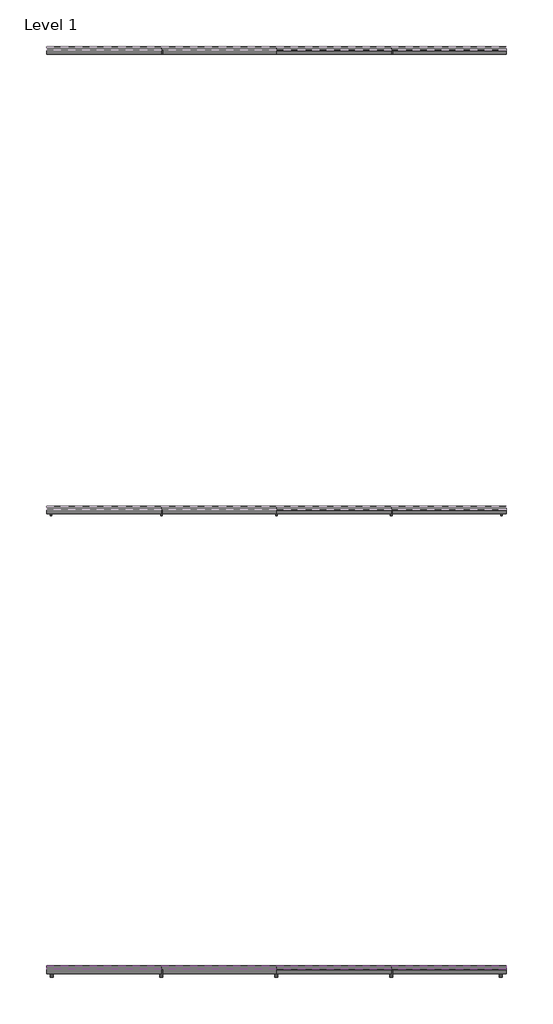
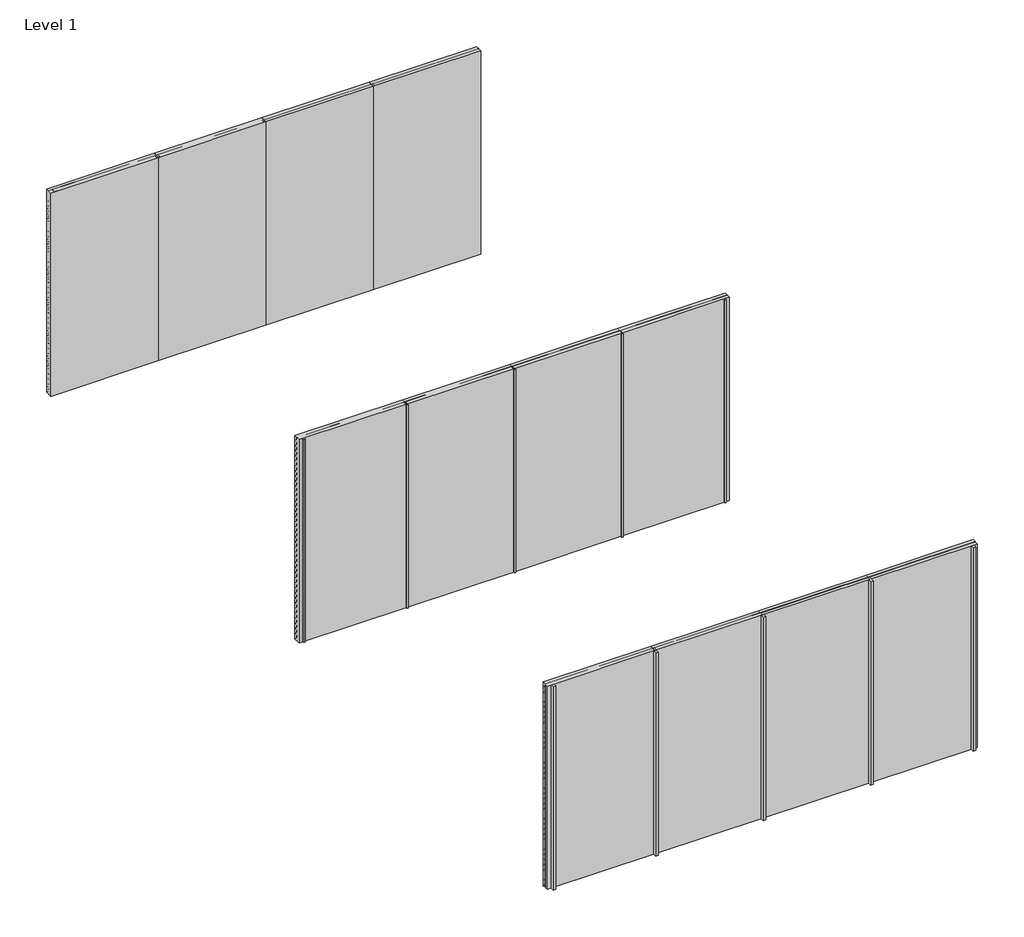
# One storey, part 1 of 2: 49 proxies, 15 members, 15 plates.
"""IFC4 building model written with IfcOpenShell, lengths in millimetres."""

from ifc_helpers import new_model, si_unit, frame, origin, origin_with_axes, place, context, project, spatial, polyline, outline, extrude, transform, mapped, element, save
from components import rectangular_mullion_98630f9b, rectangular_mullion_da718602, rectangular_mullion_a477f927, rectangular_mullion_586cffca, rectangular_mullion_76a5abe1, rectangular_mullion_925e09c1, rectangular_mullion_f8ddd055, rectangular_mullion_9de2c187, rectangular_mullion_b1fd9634, empty_system_panel_empty_ae16e1e1

model = new_model("IFC4")

# Units and contexts
model_context = context("Model", 3, world=origin())
ifc_project = project(units=[si_unit("LENGTHUNIT", "METRE", prefix="MILLI")], contexts=[model_context])

# Site, building, storey
site = spatial("IfcSite", under=ifc_project)
building = spatial("IfcBuilding", under=site)
storey = spatial("IfcBuildingStorey", under=building, Name="Level 1", Elevation=0.0)

# Proxies
placement = place(None, origin())
element("IfcBuildingElementProxy", 1, Name="Wall Sweeps", at=placement, inside=storey, context=model_context, shape_type="SweptSolid", body=[
    extrude(outline(polyline([(-7995.0, 3000.0), (-7995.0, 2992.2770357), (-7948.3, 2928.0), (-7948.3, 2910.0), (-7997.0, 2977.0297995), (-7997.0, 3000.0), (-7995.0, 3000.0)])), frame((0.0, 0.0, 0.0), z_axis=(1.0, 0.0, 0.0), x_axis=(0.0, 1.0, 0.0)), (0.0, 0.0, 1.0), 6000.0),
])
element("IfcBuildingElementProxy", 2, Name="Wall Sweeps", at=placement, inside=storey, context=model_context, shape_type="SweptSolid", body=[
    extrude(outline(polyline([(-7995.0, 2925.0), (-7995.0, 2917.2770357), (-7948.3, 2853.0), (-7948.3, 2835.0), (-7997.0, 2902.0297995), (-7997.0, 2925.0), (-7995.0, 2925.0)])), frame((0.0, 0.0, 0.0), z_axis=(1.0, 0.0, 0.0), x_axis=(0.0, 1.0, 0.0)), (0.0, 0.0, 1.0), 6000.0),
])
element("IfcBuildingElementProxy", 3, Name="Wall Sweeps", at=placement, inside=storey, context=model_context, shape_type="SweptSolid", body=[
    extrude(outline(polyline([(-7995.0, 2850.0), (-7995.0, 2842.2770357), (-7948.3, 2778.0), (-7948.3, 2760.0), (-7997.0, 2827.0297995), (-7997.0, 2850.0), (-7995.0, 2850.0)])), frame((0.0, 0.0, 0.0), z_axis=(1.0, 0.0, 0.0), x_axis=(0.0, 1.0, 0.0)), (0.0, 0.0, 1.0), 6000.0),
])
element("IfcBuildingElementProxy", 4, Name="Wall Sweeps", at=placement, inside=storey, context=model_context, shape_type="SweptSolid", body=[
    extrude(outline(polyline([(-7995.0, 2775.0), (-7995.0, 2767.2770357), (-7948.3, 2703.0), (-7948.3, 2685.0), (-7997.0, 2752.0297995), (-7997.0, 2775.0), (-7995.0, 2775.0)])), frame((0.0, 0.0, 0.0), z_axis=(1.0, 0.0, 0.0), x_axis=(0.0, 1.0, 0.0)), (0.0, 0.0, 1.0), 6000.0),
])
element("IfcBuildingElementProxy", 5, Name="Wall Sweeps", at=placement, inside=storey, context=model_context, shape_type="SweptSolid", body=[
    extrude(outline(polyline([(-7995.0, 2700.0), (-7995.0, 2692.2770357), (-7948.3, 2628.0), (-7948.3, 2610.0), (-7997.0, 2677.0297995), (-7997.0, 2700.0), (-7995.0, 2700.0)])), frame((0.0, 0.0, 0.0), z_axis=(1.0, 0.0, 0.0), x_axis=(0.0, 1.0, 0.0)), (0.0, 0.0, 1.0), 6000.0),
])
element("IfcBuildingElementProxy", 6, Name="Wall Sweeps", at=placement, inside=storey, context=model_context, shape_type="SweptSolid", body=[
    extrude(outline(polyline([(-7995.0, 2625.0), (-7995.0, 2617.2770357), (-7948.3, 2553.0), (-7948.3, 2535.0), (-7997.0, 2602.0297995), (-7997.0, 2625.0), (-7995.0, 2625.0)])), frame((0.0, 0.0, 0.0), z_axis=(1.0, 0.0, 0.0), x_axis=(0.0, 1.0, 0.0)), (0.0, 0.0, 1.0), 6000.0),
])
element("IfcBuildingElementProxy", 7, Name="Wall Sweeps", at=placement, inside=storey, context=model_context, shape_type="SweptSolid", body=[
    extrude(outline(polyline([(-7995.0, 2550.0), (-7995.0, 2542.2770357), (-7948.3, 2478.0), (-7948.3, 2460.0), (-7997.0, 2527.0297995), (-7997.0, 2550.0), (-7995.0, 2550.0)])), frame((0.0, 0.0, 0.0), z_axis=(1.0, 0.0, 0.0), x_axis=(0.0, 1.0, 0.0)), (0.0, 0.0, 1.0), 6000.0),
])
element("IfcBuildingElementProxy", 8, Name="Wall Sweeps", at=placement, inside=storey, context=model_context, shape_type="SweptSolid", body=[
    extrude(outline(polyline([(-7995.0, 2475.0), (-7995.0, 2467.2770357), (-7948.3, 2403.0), (-7948.3, 2385.0), (-7997.0, 2452.0297995), (-7997.0, 2475.0), (-7995.0, 2475.0)])), frame((0.0, 0.0, 0.0), z_axis=(1.0, 0.0, 0.0), x_axis=(0.0, 1.0, 0.0)), (0.0, 0.0, 1.0), 6000.0),
])
element("IfcBuildingElementProxy", 9, Name="Wall Sweeps", at=placement, inside=storey, context=model_context, shape_type="SweptSolid", body=[
    extrude(outline(polyline([(-7995.0, 2400.0), (-7995.0, 2392.2770357), (-7948.3, 2328.0), (-7948.3, 2310.0), (-7997.0, 2377.0297995), (-7997.0, 2400.0), (-7995.0, 2400.0)])), frame((0.0, 0.0, 0.0), z_axis=(1.0, 0.0, 0.0), x_axis=(0.0, 1.0, 0.0)), (0.0, 0.0, 1.0), 6000.0),
])
element("IfcBuildingElementProxy", 10, Name="Wall Sweeps", at=placement, inside=storey, context=model_context, shape_type="SweptSolid", body=[
    extrude(outline(polyline([(-13995.0, 3000.0), (-13995.0, 2992.2770357), (-13948.3, 2928.0), (-13948.3, 2910.0), (-13997.0, 2977.0297995), (-13997.0, 3000.0), (-13995.0, 3000.0)])), frame((0.0, 0.0, 0.0), z_axis=(1.0, 0.0, 0.0), x_axis=(0.0, 1.0, 0.0)), (0.0, 0.0, 1.0), 6000.0),
])
element("IfcBuildingElementProxy", 11, Name="Wall Sweeps", at=placement, inside=storey, context=model_context, shape_type="SweptSolid", body=[
    extrude(outline(polyline([(-13995.0, 2925.0), (-13995.0, 2917.2770357), (-13948.3, 2853.0), (-13948.3, 2835.0), (-13997.0, 2902.0297995), (-13997.0, 2925.0), (-13995.0, 2925.0)])), frame((0.0, 0.0, 0.0), z_axis=(1.0, 0.0, 0.0), x_axis=(0.0, 1.0, 0.0)), (0.0, 0.0, 1.0), 6000.0),
])
element("IfcBuildingElementProxy", 12, Name="Wall Sweeps", at=placement, inside=storey, context=model_context, shape_type="SweptSolid", body=[
    extrude(outline(polyline([(-13995.0, 2850.0), (-13995.0, 2842.2770357), (-13948.3, 2778.0), (-13948.3, 2760.0), (-13997.0, 2827.0297995), (-13997.0, 2850.0), (-13995.0, 2850.0)])), frame((0.0, 0.0, 0.0), z_axis=(1.0, 0.0, 0.0), x_axis=(0.0, 1.0, 0.0)), (0.0, 0.0, 1.0), 6000.0),
])
element("IfcBuildingElementProxy", 13, Name="Wall Sweeps", at=placement, inside=storey, context=model_context, shape_type="SweptSolid", body=[
    extrude(outline(polyline([(-13995.0, 2775.0), (-13995.0, 2767.2770357), (-13948.3, 2703.0), (-13948.3, 2685.0), (-13997.0, 2752.0297995), (-13997.0, 2775.0), (-13995.0, 2775.0)])), frame((0.0, 0.0, 0.0), z_axis=(1.0, 0.0, 0.0), x_axis=(0.0, 1.0, 0.0)), (0.0, 0.0, 1.0), 6000.0),
])
element("IfcBuildingElementProxy", 14, Name="Wall Sweeps", at=placement, inside=storey, context=model_context, shape_type="SweptSolid", body=[
    extrude(outline(polyline([(-13995.0, 2700.0), (-13995.0, 2692.2770357), (-13948.3, 2628.0), (-13948.3, 2610.0), (-13997.0, 2677.0297995), (-13997.0, 2700.0), (-13995.0, 2700.0)])), frame((0.0, 0.0, 0.0), z_axis=(1.0, 0.0, 0.0), x_axis=(0.0, 1.0, 0.0)), (0.0, 0.0, 1.0), 6000.0),
])
element("IfcBuildingElementProxy", 15, Name="Wall Sweeps", at=placement, inside=storey, context=model_context, shape_type="SweptSolid", body=[
    extrude(outline(polyline([(-13995.0, 2625.0), (-13995.0, 2617.2770357), (-13948.3, 2553.0), (-13948.3, 2535.0), (-13997.0, 2602.0297995), (-13997.0, 2625.0), (-13995.0, 2625.0)])), frame((0.0, 0.0, 0.0), z_axis=(1.0, 0.0, 0.0), x_axis=(0.0, 1.0, 0.0)), (0.0, 0.0, 1.0), 6000.0),
])
element("IfcBuildingElementProxy", 16, Name="Wall Sweeps", at=placement, inside=storey, context=model_context, shape_type="SweptSolid", body=[
    extrude(outline(polyline([(-13995.0, 2550.0), (-13995.0, 2542.2770357), (-13948.3, 2478.0), (-13948.3, 2460.0), (-13997.0, 2527.0297995), (-13997.0, 2550.0), (-13995.0, 2550.0)])), frame((0.0, 0.0, 0.0), z_axis=(1.0, 0.0, 0.0), x_axis=(0.0, 1.0, 0.0)), (0.0, 0.0, 1.0), 6000.0),
])
element("IfcBuildingElementProxy", 17, Name="Wall Sweeps", at=placement, inside=storey, context=model_context, shape_type="SweptSolid", body=[
    extrude(outline(polyline([(-13995.0, 2475.0), (-13995.0, 2467.2770357), (-13948.3, 2403.0), (-13948.3, 2385.0), (-13997.0, 2452.0297995), (-13997.0, 2475.0), (-13995.0, 2475.0)])), frame((0.0, 0.0, 0.0), z_axis=(1.0, 0.0, 0.0), x_axis=(0.0, 1.0, 0.0)), (0.0, 0.0, 1.0), 6000.0),
])
element("IfcBuildingElementProxy", 18, Name="Wall Sweeps", at=placement, inside=storey, context=model_context, shape_type="SweptSolid", body=[
    extrude(outline(polyline([(-13995.0, 2400.0), (-13995.0, 2392.2770357), (-13948.3, 2328.0), (-13948.3, 2310.0), (-13997.0, 2377.0297995), (-13997.0, 2400.0), (-13995.0, 2400.0)])), frame((0.0, 0.0, 0.0), z_axis=(1.0, 0.0, 0.0), x_axis=(0.0, 1.0, 0.0)), (0.0, 0.0, 1.0), 6000.0),
])
element("IfcBuildingElementProxy", 19, Name="Wall Sweeps", at=placement, inside=storey, context=model_context, shape_type="SweptSolid", body=[
    extrude(outline(polyline([(-13995.0, 2325.0), (-13995.0, 2317.2770357), (-13948.3, 2253.0), (-13948.3, 2235.0), (-13997.0, 2302.0297995), (-13997.0, 2325.0), (-13995.0, 2325.0)])), frame((0.0, 0.0, 0.0), z_axis=(1.0, 0.0, 0.0), x_axis=(0.0, 1.0, 0.0)), (0.0, 0.0, 1.0), 6000.0),
])
element("IfcBuildingElementProxy", 20, Name="Wall Sweeps", at=placement, inside=storey, context=model_context, shape_type="SweptSolid", body=[
    extrude(outline(polyline([(-13995.0, 2250.0), (-13995.0, 2242.2770357), (-13948.3, 2178.0), (-13948.3, 2160.0), (-13997.0, 2227.0297995), (-13997.0, 2250.0), (-13995.0, 2250.0)])), frame((0.0, 0.0, 0.0), z_axis=(1.0, 0.0, 0.0), x_axis=(0.0, 1.0, 0.0)), (0.0, 0.0, 1.0), 6000.0),
])
element("IfcBuildingElementProxy", 21, Name="Wall Sweeps", at=placement, inside=storey, context=model_context, shape_type="SweptSolid", body=[
    extrude(outline(polyline([(-13995.0, 2175.0), (-13995.0, 2167.2770357), (-13948.3, 2103.0), (-13948.3, 2085.0), (-13997.0, 2152.0297995), (-13997.0, 2175.0), (-13995.0, 2175.0)])), frame((0.0, 0.0, 0.0), z_axis=(1.0, 0.0, 0.0), x_axis=(0.0, 1.0, 0.0)), (0.0, 0.0, 1.0), 6000.0),
])
element("IfcBuildingElementProxy", 22, Name="Wall Sweeps", at=placement, inside=storey, context=model_context, shape_type="SweptSolid", body=[
    extrude(outline(polyline([(-13995.0, 2100.0), (-13995.0, 2092.2770357), (-13948.3, 2028.0), (-13948.3, 2010.0), (-13997.0, 2077.0297995), (-13997.0, 2100.0), (-13995.0, 2100.0)])), frame((0.0, 0.0, 0.0), z_axis=(1.0, 0.0, 0.0), x_axis=(0.0, 1.0, 0.0)), (0.0, 0.0, 1.0), 6000.0),
])
element("IfcBuildingElementProxy", 23, Name="Wall Sweeps", at=placement, inside=storey, context=model_context, shape_type="SweptSolid", body=[
    extrude(outline(polyline([(-13995.0, 2025.0), (-13995.0, 2017.2770357), (-13948.3, 1953.0), (-13948.3, 1935.0), (-13997.0, 2002.0297995), (-13997.0, 2025.0), (-13995.0, 2025.0)])), frame((0.0, 0.0, 0.0), z_axis=(1.0, 0.0, 0.0), x_axis=(0.0, 1.0, 0.0)), (0.0, 0.0, 1.0), 6000.0),
])
element("IfcBuildingElementProxy", 24, Name="Wall Sweeps", at=placement, inside=storey, context=model_context, shape_type="SweptSolid", body=[
    extrude(outline(polyline([(-13995.0, 1950.0), (-13995.0, 1942.2770357), (-13948.3, 1878.0), (-13948.3, 1860.0), (-13997.0, 1927.0297995), (-13997.0, 1950.0), (-13995.0, 1950.0)])), frame((0.0, 0.0, 0.0), z_axis=(1.0, 0.0, 0.0), x_axis=(0.0, 1.0, 0.0)), (0.0, 0.0, 1.0), 6000.0),
])
element("IfcBuildingElementProxy", 25, Name="Wall Sweeps", at=placement, inside=storey, context=model_context, shape_type="SweptSolid", body=[
    extrude(outline(polyline([(-13995.0, 1875.0), (-13995.0, 1867.2770357), (-13948.3, 1803.0), (-13948.3, 1785.0), (-13997.0, 1852.0297995), (-13997.0, 1875.0), (-13995.0, 1875.0)])), frame((0.0, 0.0, 0.0), z_axis=(1.0, 0.0, 0.0), x_axis=(0.0, 1.0, 0.0)), (0.0, 0.0, 1.0), 6000.0),
])
element("IfcBuildingElementProxy", 26, Name="Wall Sweeps", at=placement, inside=storey, context=model_context, shape_type="SweptSolid", body=[
    extrude(outline(polyline([(-13995.0, 1800.0), (-13995.0, 1792.2770357), (-13948.3, 1728.0), (-13948.3, 1710.0), (-13997.0, 1777.0297995), (-13997.0, 1800.0), (-13995.0, 1800.0)])), frame((0.0, 0.0, 0.0), z_axis=(1.0, 0.0, 0.0), x_axis=(0.0, 1.0, 0.0)), (0.0, 0.0, 1.0), 6000.0),
])
element("IfcBuildingElementProxy", 27, Name="Wall Sweeps", at=placement, inside=storey, context=model_context, shape_type="SweptSolid", body=[
    extrude(outline(polyline([(-13995.0, 1725.0), (-13995.0, 1717.2770357), (-13948.3, 1653.0), (-13948.3, 1635.0), (-13997.0, 1702.0297995), (-13997.0, 1725.0), (-13995.0, 1725.0)])), frame((0.0, 0.0, 0.0), z_axis=(1.0, 0.0, 0.0), x_axis=(0.0, 1.0, 0.0)), (0.0, 0.0, 1.0), 6000.0),
])
element("IfcBuildingElementProxy", 28, Name="Wall Sweeps", at=placement, inside=storey, context=model_context, shape_type="SweptSolid", body=[
    extrude(outline(polyline([(-13995.0, 1650.0), (-13995.0, 1642.2770357), (-13948.3, 1578.0), (-13948.3, 1560.0), (-13997.0, 1627.0297995), (-13997.0, 1650.0), (-13995.0, 1650.0)])), frame((0.0, 0.0, 0.0), z_axis=(1.0, 0.0, 0.0), x_axis=(0.0, 1.0, 0.0)), (0.0, 0.0, 1.0), 6000.0),
])
element("IfcBuildingElementProxy", 29, Name="Wall Sweeps", at=placement, inside=storey, context=model_context, shape_type="SweptSolid", body=[
    extrude(outline(polyline([(-13995.0, 1575.0), (-13995.0, 1567.2770357), (-13948.3, 1503.0), (-13948.3, 1485.0), (-13997.0, 1552.0297995), (-13997.0, 1575.0), (-13995.0, 1575.0)])), frame((0.0, 0.0, 0.0), z_axis=(1.0, 0.0, 0.0), x_axis=(0.0, 1.0, 0.0)), (0.0, 0.0, 1.0), 6000.0),
])
element("IfcBuildingElementProxy", 30, Name="Wall Sweeps", at=placement, inside=storey, context=model_context, shape_type="SweptSolid", body=[
    extrude(outline(polyline([(-13995.0, 1500.0), (-13995.0, 1492.2770357), (-13948.3, 1428.0), (-13948.3, 1410.0), (-13997.0, 1477.0297995), (-13997.0, 1500.0), (-13995.0, 1500.0)])), frame((0.0, 0.0, 0.0), z_axis=(1.0, 0.0, 0.0), x_axis=(0.0, 1.0, 0.0)), (0.0, 0.0, 1.0), 6000.0),
])
element("IfcBuildingElementProxy", 31, Name="Wall Sweeps", at=placement, inside=storey, context=model_context, shape_type="SweptSolid", body=[
    extrude(outline(polyline([(-13995.0, 1425.0), (-13995.0, 1417.2770357), (-13948.3, 1353.0), (-13948.3, 1335.0), (-13997.0, 1402.0297995), (-13997.0, 1425.0), (-13995.0, 1425.0)])), frame((0.0, 0.0, 0.0), z_axis=(1.0, 0.0, 0.0), x_axis=(0.0, 1.0, 0.0)), (0.0, 0.0, 1.0), 6000.0),
])
element("IfcBuildingElementProxy", 32, Name="Wall Sweeps", at=placement, inside=storey, context=model_context, shape_type="SweptSolid", body=[
    extrude(outline(polyline([(-13995.0, 1350.0), (-13995.0, 1342.2770357), (-13948.3, 1278.0), (-13948.3, 1260.0), (-13997.0, 1327.0297995), (-13997.0, 1350.0), (-13995.0, 1350.0)])), frame((0.0, 0.0, 0.0), z_axis=(1.0, 0.0, 0.0), x_axis=(0.0, 1.0, 0.0)), (0.0, 0.0, 1.0), 6000.0),
])
element("IfcBuildingElementProxy", 33, Name="Wall Sweeps", at=placement, inside=storey, context=model_context, shape_type="SweptSolid", body=[
    extrude(outline(polyline([(-13995.0, 1275.0), (-13995.0, 1267.2770357), (-13948.3, 1203.0), (-13948.3, 1185.0), (-13997.0, 1252.0297995), (-13997.0, 1275.0), (-13995.0, 1275.0)])), frame((0.0, 0.0, 0.0), z_axis=(1.0, 0.0, 0.0), x_axis=(0.0, 1.0, 0.0)), (0.0, 0.0, 1.0), 6000.0),
])
element("IfcBuildingElementProxy", 34, Name="Wall Sweeps", at=placement, inside=storey, context=model_context, shape_type="SweptSolid", body=[
    extrude(outline(polyline([(-13995.0, 1200.0), (-13995.0, 1192.2770357), (-13948.3, 1128.0), (-13948.3, 1110.0), (-13997.0, 1177.0297995), (-13997.0, 1200.0), (-13995.0, 1200.0)])), frame((0.0, 0.0, 0.0), z_axis=(1.0, 0.0, 0.0), x_axis=(0.0, 1.0, 0.0)), (0.0, 0.0, 1.0), 6000.0),
])
element("IfcBuildingElementProxy", 35, Name="Wall Sweeps", at=placement, inside=storey, context=model_context, shape_type="SweptSolid", body=[
    extrude(outline(polyline([(-13995.0, 1125.0), (-13995.0, 1117.2770357), (-13948.3, 1053.0), (-13948.3, 1035.0), (-13997.0, 1102.0297995), (-13997.0, 1125.0), (-13995.0, 1125.0)])), frame((0.0, 0.0, 0.0), z_axis=(1.0, 0.0, 0.0), x_axis=(0.0, 1.0, 0.0)), (0.0, 0.0, 1.0), 6000.0),
])
element("IfcBuildingElementProxy", 36, Name="Wall Sweeps", at=placement, inside=storey, context=model_context, shape_type="SweptSolid", body=[
    extrude(outline(polyline([(-13995.0, 1050.0), (-13995.0, 1042.2770357), (-13948.3, 978.0), (-13948.3, 960.0), (-13997.0, 1027.0297995), (-13997.0, 1050.0), (-13995.0, 1050.0)])), frame((0.0, 0.0, 0.0), z_axis=(1.0, 0.0, 0.0), x_axis=(0.0, 1.0, 0.0)), (0.0, 0.0, 1.0), 6000.0),
])
element("IfcBuildingElementProxy", 37, Name="Wall Sweeps", at=placement, inside=storey, context=model_context, shape_type="SweptSolid", body=[
    extrude(outline(polyline([(-13995.0, 975.0), (-13995.0, 967.2770357), (-13948.3, 903.0), (-13948.3, 885.0), (-13997.0, 952.0297995), (-13997.0, 975.0), (-13995.0, 975.0)])), frame((0.0, 0.0, 0.0), z_axis=(1.0, 0.0, 0.0), x_axis=(0.0, 1.0, 0.0)), (0.0, 0.0, 1.0), 6000.0),
])
element("IfcBuildingElementProxy", 38, Name="Wall Sweeps", at=placement, inside=storey, context=model_context, shape_type="SweptSolid", body=[
    extrude(outline(polyline([(-13995.0, 900.0), (-13995.0, 892.2770357), (-13948.3, 828.0), (-13948.3, 810.0), (-13997.0, 877.0297995), (-13997.0, 900.0), (-13995.0, 900.0)])), frame((0.0, 0.0, 0.0), z_axis=(1.0, 0.0, 0.0), x_axis=(0.0, 1.0, 0.0)), (0.0, 0.0, 1.0), 6000.0),
])
element("IfcBuildingElementProxy", 39, Name="Wall Sweeps", at=placement, inside=storey, context=model_context, shape_type="SweptSolid", body=[
    extrude(outline(polyline([(-13995.0, 825.0), (-13995.0, 817.2770357), (-13948.3, 753.0), (-13948.3, 735.0), (-13997.0, 802.0297995), (-13997.0, 825.0), (-13995.0, 825.0)])), frame((0.0, 0.0, 0.0), z_axis=(1.0, 0.0, 0.0), x_axis=(0.0, 1.0, 0.0)), (0.0, 0.0, 1.0), 6000.0),
])
element("IfcBuildingElementProxy", 40, Name="Wall Sweeps", at=placement, inside=storey, context=model_context, shape_type="SweptSolid", body=[
    extrude(outline(polyline([(-13995.0, 750.0), (-13995.0, 742.2770357), (-13948.3, 678.0), (-13948.3, 660.0), (-13997.0, 727.0297995), (-13997.0, 750.0), (-13995.0, 750.0)])), frame((0.0, 0.0, 0.0), z_axis=(1.0, 0.0, 0.0), x_axis=(0.0, 1.0, 0.0)), (0.0, 0.0, 1.0), 6000.0),
])
element("IfcBuildingElementProxy", 41, Name="Wall Sweeps", at=placement, inside=storey, context=model_context, shape_type="SweptSolid", body=[
    extrude(outline(polyline([(-13995.0, 675.0), (-13995.0, 667.2770357), (-13948.3, 603.0), (-13948.3, 585.0), (-13997.0, 652.0297995), (-13997.0, 675.0), (-13995.0, 675.0)])), frame((0.0, 0.0, 0.0), z_axis=(1.0, 0.0, 0.0), x_axis=(0.0, 1.0, 0.0)), (0.0, 0.0, 1.0), 6000.0),
])
element("IfcBuildingElementProxy", 42, Name="Wall Sweeps", at=placement, inside=storey, context=model_context, shape_type="SweptSolid", body=[
    extrude(outline(polyline([(-13995.0, 600.0), (-13995.0, 592.2770357), (-13948.3, 528.0), (-13948.3, 510.0), (-13997.0, 577.0297995), (-13997.0, 600.0), (-13995.0, 600.0)])), frame((0.0, 0.0, 0.0), z_axis=(1.0, 0.0, 0.0), x_axis=(0.0, 1.0, 0.0)), (0.0, 0.0, 1.0), 6000.0),
])
element("IfcBuildingElementProxy", 43, Name="Wall Sweeps", at=placement, inside=storey, context=model_context, shape_type="SweptSolid", body=[
    extrude(outline(polyline([(-13995.0, 525.0), (-13995.0, 517.2770357), (-13948.3, 453.0), (-13948.3, 435.0), (-13997.0, 502.0297995), (-13997.0, 525.0), (-13995.0, 525.0)])), frame((0.0, 0.0, 0.0), z_axis=(1.0, 0.0, 0.0), x_axis=(0.0, 1.0, 0.0)), (0.0, 0.0, 1.0), 6000.0),
])
element("IfcBuildingElementProxy", 44, Name="Wall Sweeps", at=placement, inside=storey, context=model_context, shape_type="SweptSolid", body=[
    extrude(outline(polyline([(-13995.0, 450.0), (-13995.0, 442.2770357), (-13948.3, 378.0), (-13948.3, 360.0), (-13997.0, 427.0297995), (-13997.0, 450.0), (-13995.0, 450.0)])), frame((0.0, 0.0, 0.0), z_axis=(1.0, 0.0, 0.0), x_axis=(0.0, 1.0, 0.0)), (0.0, 0.0, 1.0), 6000.0),
])
element("IfcBuildingElementProxy", 45, Name="Wall Sweeps", at=placement, inside=storey, context=model_context, shape_type="SweptSolid", body=[
    extrude(outline(polyline([(-13995.0, 375.0), (-13995.0, 367.2770357), (-13948.3, 303.0), (-13948.3, 285.0), (-13997.0, 352.0297995), (-13997.0, 375.0), (-13995.0, 375.0)])), frame((0.0, 0.0, 0.0), z_axis=(1.0, 0.0, 0.0), x_axis=(0.0, 1.0, 0.0)), (0.0, 0.0, 1.0), 6000.0),
])
element("IfcBuildingElementProxy", 46, Name="Wall Sweeps", at=placement, inside=storey, context=model_context, shape_type="SweptSolid", body=[
    extrude(outline(polyline([(-13995.0, 300.0), (-13995.0, 292.2770357), (-13948.3, 228.0), (-13948.3, 210.0), (-13997.0, 277.0297995), (-13997.0, 300.0), (-13995.0, 300.0)])), frame((0.0, 0.0, 0.0), z_axis=(1.0, 0.0, 0.0), x_axis=(0.0, 1.0, 0.0)), (0.0, 0.0, 1.0), 6000.0),
])
element("IfcBuildingElementProxy", 47, Name="Wall Sweeps", at=placement, inside=storey, context=model_context, shape_type="SweptSolid", body=[
    extrude(outline(polyline([(-13995.0, 225.0), (-13995.0, 217.2770357), (-13948.3, 153.0), (-13948.3, 135.0), (-13997.0, 202.0297995), (-13997.0, 225.0), (-13995.0, 225.0)])), frame((0.0, 0.0, 0.0), z_axis=(1.0, 0.0, 0.0), x_axis=(0.0, 1.0, 0.0)), (0.0, 0.0, 1.0), 6000.0),
])
element("IfcBuildingElementProxy", 48, Name="Wall Sweeps", at=placement, inside=storey, context=model_context, shape_type="SweptSolid", body=[
    extrude(outline(polyline([(-13995.0, 150.0), (-13995.0, 142.2770357), (-13948.3, 78.0), (-13948.3, 60.0), (-13997.0, 127.0297995), (-13997.0, 150.0), (-13995.0, 150.0)])), frame((0.0, 0.0, 0.0), z_axis=(1.0, 0.0, 0.0), x_axis=(0.0, 1.0, 0.0)), (0.0, 0.0, 1.0), 6000.0),
])
element("IfcBuildingElementProxy", 49, Name="Wall Sweeps", at=placement, inside=storey, context=model_context, shape_type="SweptSolid", body=[
    extrude(outline(polyline([(-13995.0, 75.0), (-13995.0, 67.2770357), (-13948.3, 3.0), (-13948.3, -15.0), (-13997.0, 52.0297995), (-13997.0, 75.0), (-13995.0, 75.0)])), frame((0.0, 0.0, 0.0), z_axis=(1.0, 0.0, 0.0), x_axis=(0.0, 1.0, 0.0)), (0.0, 0.0, 1.0), 6000.0),
])

# Members
rectangular_mullion_shape = rectangular_mullion_98630f9b(model_context)
element("IfcMember", 50, ObjectType="Rectangular Mullion : RSen_21_CWM_support profile - 40x47 - left_gen_duco projects", at=placement, inside=storey, context=model_context, shape_type="MappedRepresentation", body=[
    mapped(rectangular_mullion_shape, transform((0.0, -2000.0, 0.0), x_axis=(-1.0, 0.0, 0.0), y_axis=(0.0, 1.0, 0.0), z_axis=(0.0, 0.0, -1.0))),
])
rectangular_mullion_2_shape = rectangular_mullion_da718602(model_context)
element("IfcMember", 51, ObjectType="Rectangular Mullion : RSen_21_CWM_support profile - 40x47 - right_gen_duco projects", at=placement, inside=storey, context=model_context, shape_type="MappedRepresentation", body=[
    mapped(rectangular_mullion_2_shape, transform((6000.0, -2000.0, 3000.0), x_axis=(1.0, 0.0, 0.0), y_axis=(0.0, 1.0, 0.0), z_axis=(0.0, 0.0, 1.0))),
])
rectangular_mullion_3_shape = rectangular_mullion_a477f927(model_context)
element("IfcMember", 52, ObjectType="Rectangular Mullion : RSen_21_CWM_support profile - 21x73 - left_gen_duco projects", at=placement, inside=storey, context=model_context, shape_type="MappedRepresentation", body=[
    mapped(rectangular_mullion_3_shape, transform((0.0, -8000.0, 0.0), x_axis=(-1.0, 0.0, 0.0), y_axis=(0.0, 1.0, 0.0), z_axis=(0.0, 0.0, -1.0))),
])
rectangular_mullion_4_shape = rectangular_mullion_586cffca(model_context)
element("IfcMember", 53, ObjectType="Rectangular Mullion : RSen_21_CWM_support profile - 21x73 - right_gen_duco projects", at=placement, inside=storey, context=model_context, shape_type="MappedRepresentation", body=[
    mapped(rectangular_mullion_4_shape, transform((6000.0, -8000.0, 3000.0), x_axis=(1.0, 0.0, 0.0), y_axis=(0.0, 1.0, 0.0), z_axis=(0.0, 0.0, 1.0))),
])
rectangular_mullion_5_shape = rectangular_mullion_76a5abe1(model_context)
element("IfcMember", 54, ObjectType="Rectangular Mullion : RSen_21_CWM_support profile - 40x102 - left_gen_duco projects", at=placement, inside=storey, context=model_context, shape_type="MappedRepresentation", body=[
    mapped(rectangular_mullion_5_shape, transform((0.0, -14000.0, 0.0), x_axis=(-1.0, 0.0, 0.0), y_axis=(0.0, 1.0, 0.0), z_axis=(0.0, 0.0, -1.0))),
])
rectangular_mullion_6_shape = rectangular_mullion_925e09c1(model_context)
element("IfcMember", 55, ObjectType="Rectangular Mullion : RSen_21_CWM_support profile - 40x102 - right_gen_duco projects", at=placement, inside=storey, context=model_context, shape_type="MappedRepresentation", body=[
    mapped(rectangular_mullion_6_shape, transform((6000.0, -14000.0, 3000.0), x_axis=(1.0, 0.0, 0.0), y_axis=(0.0, 1.0, 0.0), z_axis=(0.0, 0.0, 1.0))),
])
rectangular_mullion_7_shape = rectangular_mullion_f8ddd055(model_context)
element("IfcMember", 56, ObjectType="Rectangular Mullion : RSen_21_CWM_support profile - 40x47_gen_duco projects", at=placement, inside=storey, context=model_context, shape_type="MappedRepresentation", body=[
    mapped(rectangular_mullion_7_shape, transform((4500.0, -2000.0, 0.0), x_axis=(-1.0, 0.0, 0.0), y_axis=(0.0, 1.0, 0.0), z_axis=(0.0, 0.0, -1.0))),
])
element("IfcMember", 57, ObjectType="Rectangular Mullion : RSen_21_CWM_support profile - 40x47_gen_duco projects", at=placement, inside=storey, context=model_context, shape_type="MappedRepresentation", body=[
    mapped(rectangular_mullion_7_shape, transform((3000.0, -2000.0, 0.0), x_axis=(-1.0, 0.0, 0.0), y_axis=(0.0, 1.0, 0.0), z_axis=(0.0, 0.0, -1.0))),
])
element("IfcMember", 58, ObjectType="Rectangular Mullion : RSen_21_CWM_support profile - 40x47_gen_duco projects", at=placement, inside=storey, context=model_context, shape_type="MappedRepresentation", body=[
    mapped(rectangular_mullion_7_shape, transform((1500.0, -2000.0, 0.0), x_axis=(-1.0, 0.0, 0.0), y_axis=(0.0, 1.0, 0.0), z_axis=(0.0, 0.0, -1.0))),
])
rectangular_mullion_8_shape = rectangular_mullion_9de2c187(model_context)
element("IfcMember", 59, ObjectType="Rectangular Mullion : RSen_21_CWM_support profile - 21x73_gen_duco projects", at=placement, inside=storey, context=model_context, shape_type="MappedRepresentation", body=[
    mapped(rectangular_mullion_8_shape, transform((4500.0, -8000.0, 0.0), x_axis=(-1.0, 0.0, 0.0), y_axis=(0.0, 1.0, 0.0), z_axis=(0.0, 0.0, -1.0))),
])
element("IfcMember", 60, ObjectType="Rectangular Mullion : RSen_21_CWM_support profile - 21x73_gen_duco projects", at=placement, inside=storey, context=model_context, shape_type="MappedRepresentation", body=[
    mapped(rectangular_mullion_8_shape, transform((3000.0, -8000.0, 0.0), x_axis=(-1.0, 0.0, 0.0), y_axis=(0.0, 1.0, 0.0), z_axis=(0.0, 0.0, -1.0))),
])
element("IfcMember", 61, ObjectType="Rectangular Mullion : RSen_21_CWM_support profile - 21x73_gen_duco projects", at=placement, inside=storey, context=model_context, shape_type="MappedRepresentation", body=[
    mapped(rectangular_mullion_8_shape, transform((1500.0, -8000.0, 0.0), x_axis=(-1.0, 0.0, 0.0), y_axis=(0.0, 1.0, 0.0), z_axis=(0.0, 0.0, -1.0))),
])
rectangular_mullion_9_shape = rectangular_mullion_b1fd9634(model_context)
element("IfcMember", 62, ObjectType="Rectangular Mullion : RSen_21_CWM_support profile - 40x102_gen_duco projects", at=placement, inside=storey, context=model_context, shape_type="MappedRepresentation", body=[
    mapped(rectangular_mullion_9_shape, transform((4500.0, -14000.0, 0.0), x_axis=(-1.0, 0.0, 0.0), y_axis=(0.0, 1.0, 0.0), z_axis=(0.0, 0.0, -1.0))),
])
element("IfcMember", 63, ObjectType="Rectangular Mullion : RSen_21_CWM_support profile - 40x102_gen_duco projects", at=placement, inside=storey, context=model_context, shape_type="MappedRepresentation", body=[
    mapped(rectangular_mullion_9_shape, transform((3000.0, -14000.0, 0.0), x_axis=(-1.0, 0.0, 0.0), y_axis=(0.0, 1.0, 0.0), z_axis=(0.0, 0.0, -1.0))),
])
element("IfcMember", 64, ObjectType="Rectangular Mullion : RSen_21_CWM_support profile - 40x102_gen_duco projects", at=placement, inside=storey, context=model_context, shape_type="MappedRepresentation", body=[
    mapped(rectangular_mullion_9_shape, transform((1500.0, -14000.0, 0.0), x_axis=(-1.0, 0.0, 0.0), y_axis=(0.0, 1.0, 0.0), z_axis=(0.0, 0.0, -1.0))),
])

# Plates
element("IfcPlate", 65, ObjectType="RSen_21_WA_louvre blade bassic W 35S_gen_duco projects", at=placement, inside=storey, context=model_context, shape_type="SweptSolid", body=[
    extrude(outline(polyline([(0.0, -1999.0), (6000.0, -1999.0), (6000.0, -2001.0), (0.0, -2001.0), (0.0, -1999.0)])), origin_with_axes(), (0.0, 0.0, 1.0), 3000.0),
])
element("IfcPlate", 66, ObjectType="RSen_21_WA_louvre blade bassic W 35S_gen_duco projects", at=placement, inside=storey, context=model_context, shape_type="SweptSolid", body=[
    extrude(outline(polyline([(0.0, -7999.0), (6000.0, -7999.0), (6000.0, -8001.0), (0.0, -8001.0), (0.0, -7999.0)])), origin_with_axes(), (0.0, 0.0, 1.0), 3000.0),
])
element("IfcPlate", 67, ObjectType="RSen_21_WA_louvre blade bassic W 35S_gen_duco projects", at=placement, inside=storey, context=model_context, shape_type="SweptSolid", body=[
    extrude(outline(polyline([(0.0, -13999.0), (6000.0, -13999.0), (6000.0, -14001.0), (0.0, -14001.0), (0.0, -13999.0)])), origin_with_axes(), (0.0, 0.0, 1.0), 3000.0),
])
empty_system_panel_empty_shape = empty_system_panel_empty_ae16e1e1(model_context)
element("IfcPlate", 68, ObjectType="Empty System Panel : Empty", at=placement, inside=storey, context=model_context, shape_type="MappedRepresentation", body=[
    mapped(empty_system_panel_empty_shape, transform((5250.0, -2000.0, 0.0), x_axis=(-1.0, 0.0, 0.0), y_axis=(0.0, -1.0, 0.0), z_axis=(0.0, 0.0, 1.0))),
])
element("IfcPlate", 69, ObjectType="Empty System Panel : Empty", at=placement, inside=storey, context=model_context, shape_type="MappedRepresentation", body=[
    mapped(empty_system_panel_empty_shape, transform((5250.0, -8000.0, 0.0), x_axis=(-1.0, 0.0, 0.0), y_axis=(0.0, -1.0, 0.0), z_axis=(0.0, 0.0, 1.0))),
])
element("IfcPlate", 70, ObjectType="Empty System Panel : Empty", at=placement, inside=storey, context=model_context, shape_type="MappedRepresentation", body=[
    mapped(empty_system_panel_empty_shape, transform((5250.0, -14000.0, 0.0), x_axis=(-1.0, 0.0, 0.0), y_axis=(0.0, -1.0, 0.0), z_axis=(0.0, 0.0, 1.0))),
])
element("IfcPlate", 71, ObjectType="Empty System Panel : Empty", at=placement, inside=storey, context=model_context, shape_type="MappedRepresentation", body=[
    mapped(empty_system_panel_empty_shape, transform((3750.0, -2000.0, 0.0), x_axis=(-1.0, 0.0, 0.0), y_axis=(0.0, -1.0, 0.0), z_axis=(0.0, 0.0, 1.0))),
])
element("IfcPlate", 72, ObjectType="Empty System Panel : Empty", at=placement, inside=storey, context=model_context, shape_type="MappedRepresentation", body=[
    mapped(empty_system_panel_empty_shape, transform((2250.0, -2000.0, 0.0), x_axis=(-1.0, 0.0, 0.0), y_axis=(0.0, -1.0, 0.0), z_axis=(0.0, 0.0, 1.0))),
])
element("IfcPlate", 73, ObjectType="Empty System Panel : Empty", at=placement, inside=storey, context=model_context, shape_type="MappedRepresentation", body=[
    mapped(empty_system_panel_empty_shape, transform((750.0, -2000.0, 0.0), x_axis=(-1.0, 0.0, 0.0), y_axis=(0.0, -1.0, 0.0), z_axis=(0.0, 0.0, 1.0))),
])
element("IfcPlate", 74, ObjectType="Empty System Panel : Empty", at=placement, inside=storey, context=model_context, shape_type="MappedRepresentation", body=[
    mapped(empty_system_panel_empty_shape, transform((3750.0, -8000.0, 0.0), x_axis=(-1.0, 0.0, 0.0), y_axis=(0.0, -1.0, 0.0), z_axis=(0.0, 0.0, 1.0))),
])
element("IfcPlate", 75, ObjectType="Empty System Panel : Empty", at=placement, inside=storey, context=model_context, shape_type="MappedRepresentation", body=[
    mapped(empty_system_panel_empty_shape, transform((2250.0, -8000.0, 0.0), x_axis=(-1.0, 0.0, 0.0), y_axis=(0.0, -1.0, 0.0), z_axis=(0.0, 0.0, 1.0))),
])
element("IfcPlate", 76, ObjectType="Empty System Panel : Empty", at=placement, inside=storey, context=model_context, shape_type="MappedRepresentation", body=[
    mapped(empty_system_panel_empty_shape, transform((750.0, -8000.0, 0.0), x_axis=(-1.0, 0.0, 0.0), y_axis=(0.0, -1.0, 0.0), z_axis=(0.0, 0.0, 1.0))),
])
element("IfcPlate", 77, ObjectType="Empty System Panel : Empty", at=placement, inside=storey, context=model_context, shape_type="MappedRepresentation", body=[
    mapped(empty_system_panel_empty_shape, transform((3750.0, -14000.0, 0.0), x_axis=(-1.0, 0.0, 0.0), y_axis=(0.0, -1.0, 0.0), z_axis=(0.0, 0.0, 1.0))),
])
element("IfcPlate", 78, ObjectType="Empty System Panel : Empty", at=placement, inside=storey, context=model_context, shape_type="MappedRepresentation", body=[
    mapped(empty_system_panel_empty_shape, transform((2250.0, -14000.0, 0.0), x_axis=(-1.0, 0.0, 0.0), y_axis=(0.0, -1.0, 0.0), z_axis=(0.0, 0.0, 1.0))),
])
element("IfcPlate", 79, ObjectType="Empty System Panel : Empty", at=placement, inside=storey, context=model_context, shape_type="MappedRepresentation", body=[
    mapped(empty_system_panel_empty_shape, transform((750.0, -14000.0, 0.0), x_axis=(-1.0, 0.0, 0.0), y_axis=(0.0, -1.0, 0.0), z_axis=(0.0, 0.0, 1.0))),
])

save(model, "model.ifc")
